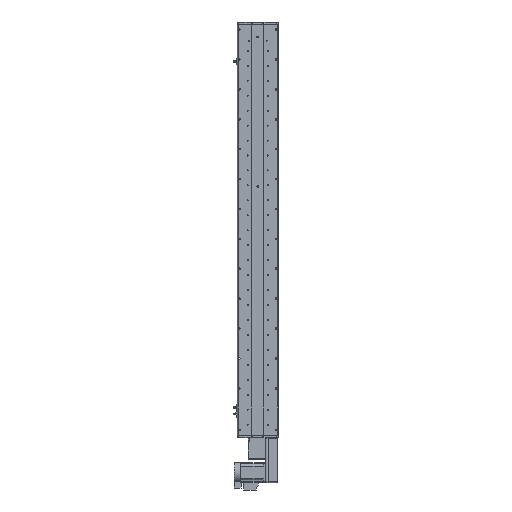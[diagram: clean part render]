
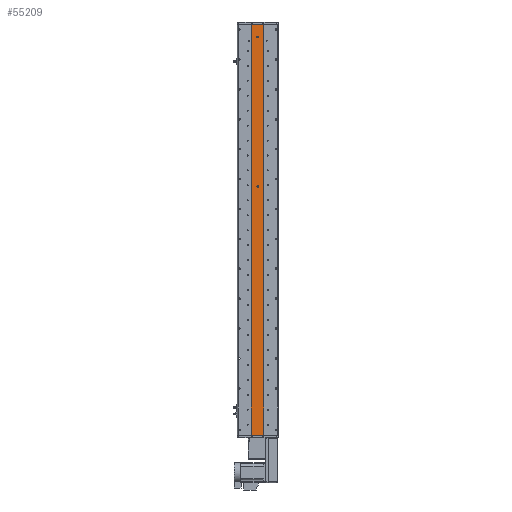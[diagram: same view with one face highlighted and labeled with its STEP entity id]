
A CAD part, front view. The second image highlights one B-rep face of the part: STEP entity #55209.
In plain terms, the highlighted planar face has unit normal (0, -1, 0).
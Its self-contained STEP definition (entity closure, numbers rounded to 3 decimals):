
#232 = VERTEX_POINT ( 'NONE', #11851 ) ;
#1005 = CARTESIAN_POINT ( 'NONE',  ( 25., 1., -823.5 ) ) ;
#1171 = VECTOR ( 'NONE', #14423, 1000. ) ;
#1515 = ORIENTED_EDGE ( 'NONE', *, *, #59315, .F. ) ;
#2602 = DIRECTION ( 'NONE',  ( 0., 0., -1. ) ) ;
#2994 = ORIENTED_EDGE ( 'NONE', *, *, #22758, .F. ) ;
#3137 = DIRECTION ( 'NONE',  ( 0., 0., -1. ) ) ;
#3350 = VERTEX_POINT ( 'NONE', #26264 ) ;
#3634 = VERTEX_POINT ( 'NONE', #34611 ) ;
#3875 = ORIENTED_EDGE ( 'NONE', *, *, #50365, .F. ) ;
#5883 = VERTEX_POINT ( 'NONE', #41955 ) ;
#7551 = AXIS2_PLACEMENT_3D ( 'NONE', #60839, #29465, #66164 ) ;
#7626 = EDGE_CURVE ( 'NONE', #232, #23912, #27800, .T. ) ;
#10427 = AXIS2_PLACEMENT_3D ( 'NONE', #51499, #51268, #62057 ) ;
#11658 = EDGE_CURVE ( 'NONE', #3634, #12683, #65482, .T. ) ;
#11851 = CARTESIAN_POINT ( 'NONE',  ( 0., 1., 176.5 ) ) ;
#12683 = VERTEX_POINT ( 'NONE', #39976 ) ;
#12722 = ORIENTED_EDGE ( 'NONE', *, *, #11658, .T. ) ;
#14423 = DIRECTION ( 'NONE',  ( 0., 0., -1. ) ) ;
#15831 = AXIS2_PLACEMENT_3D ( 'NONE', #65326, #33858, #2602 ) ;
#16627 = DIRECTION ( 'NONE',  ( 1., 0., 0. ) ) ;
#17194 = CIRCLE ( 'NONE', #35694, 3. ) ;
#18770 = CARTESIAN_POINT ( 'NONE',  ( 0., 1., 173.5 ) ) ;
#19612 = LINE ( 'NONE', #27146, #31831 ) ;
#21758 = ORIENTED_EDGE ( 'NONE', *, *, #65628, .F. ) ;
#22096 = EDGE_LOOP ( 'NONE', ( #37391, #47773 ) ) ;
#22758 = EDGE_CURVE ( 'NONE', #46324, #12683, #51998, .T. ) ;
#23245 = CIRCLE ( 'NONE', #46179, 3. ) ;
#23912 = VERTEX_POINT ( 'NONE', #48651 ) ;
#24011 = DIRECTION ( 'NONE',  ( 0., 0., -1. ) ) ;
#25425 = PLANE ( 'NONE',  #10427 ) ;
#25811 = VECTOR ( 'NONE', #37702, 1000. ) ;
#26264 = CARTESIAN_POINT ( 'NONE',  ( -25., 1., 823.5 ) ) ;
#27146 = CARTESIAN_POINT ( 'NONE',  ( 25., 1., 823.5 ) ) ;
#27191 = CARTESIAN_POINT ( 'NONE',  ( 25., 1., 823.5 ) ) ;
#27581 = ORIENTED_EDGE ( 'NONE', *, *, #32534, .T. ) ;
#27800 = CIRCLE ( 'NONE', #7551, 3. ) ;
#28612 = CIRCLE ( 'NONE', #15831, 3. ) ;
#29465 = DIRECTION ( 'NONE',  ( 0., -1., 0. ) ) ;
#31831 = VECTOR ( 'NONE', #16627, 1000. ) ;
#32253 = DIRECTION ( 'NONE',  ( 1., 0., 0. ) ) ;
#32425 = EDGE_CURVE ( 'NONE', #23912, #232, #23245, .T. ) ;
#32534 = EDGE_CURVE ( 'NONE', #3350, #3634, #58462, .T. ) ;
#33858 = DIRECTION ( 'NONE',  ( 0., -1., 0. ) ) ;
#34390 = DIRECTION ( 'NONE',  ( 0., -1., 0. ) ) ;
#34611 = CARTESIAN_POINT ( 'NONE',  ( -25., 1., -823.5 ) ) ;
#35694 = AXIS2_PLACEMENT_3D ( 'NONE', #65854, #34390, #3137 ) ;
#37391 = ORIENTED_EDGE ( 'NONE', *, *, #32425, .F. ) ;
#37702 = DIRECTION ( 'NONE',  ( 0., 0., -1. ) ) ;
#39364 = FACE_OUTER_BOUND ( 'NONE', #47741, .T. ) ;
#39976 = CARTESIAN_POINT ( 'NONE',  ( 25., 1., -823.5 ) ) ;
#41955 = CARTESIAN_POINT ( 'NONE',  ( 0., 1., 770.5 ) ) ;
#44066 = VERTEX_POINT ( 'NONE', #63555 ) ;
#46179 = AXIS2_PLACEMENT_3D ( 'NONE', #18770, #55329, #24011 ) ;
#46324 = VERTEX_POINT ( 'NONE', #56414 ) ;
#47741 = EDGE_LOOP ( 'NONE', ( #12722, #2994, #1515, #27581 ) ) ;
#47773 = ORIENTED_EDGE ( 'NONE', *, *, #7626, .F. ) ;
#48651 = CARTESIAN_POINT ( 'NONE',  ( 0., 1., 170.5 ) ) ;
#50365 = EDGE_CURVE ( 'NONE', #44066, #5883, #28612, .T. ) ;
#50945 = CARTESIAN_POINT ( 'NONE',  ( -25., 1., 823.5 ) ) ;
#51268 = DIRECTION ( 'NONE',  ( 0., 1., 0. ) ) ;
#51499 = CARTESIAN_POINT ( 'NONE',  ( 25., 1., 823.5 ) ) ;
#51998 = LINE ( 'NONE', #27191, #25811 ) ;
#53297 = FACE_BOUND ( 'NONE', #22096, .T. ) ;
#55209 = ADVANCED_FACE ( 'NONE', ( #53297, #65656, #39364 ), #25425, .F. ) ;
#55329 = DIRECTION ( 'NONE',  ( 0., -1., 0. ) ) ;
#55584 = EDGE_LOOP ( 'NONE', ( #21758, #3875 ) ) ;
#56414 = CARTESIAN_POINT ( 'NONE',  ( 25., 1., 823.5 ) ) ;
#58462 = LINE ( 'NONE', #50945, #1171 ) ;
#59315 = EDGE_CURVE ( 'NONE', #3350, #46324, #19612, .T. ) ;
#60839 = CARTESIAN_POINT ( 'NONE',  ( 0., 1., 173.5 ) ) ;
#62057 = DIRECTION ( 'NONE',  ( 0., 0., 1. ) ) ;
#63555 = CARTESIAN_POINT ( 'NONE',  ( 0., 1., 776.5 ) ) ;
#63820 = VECTOR ( 'NONE', #32253, 1000. ) ;
#65326 = CARTESIAN_POINT ( 'NONE',  ( 0., 1., 773.5 ) ) ;
#65482 = LINE ( 'NONE', #1005, #63820 ) ;
#65628 = EDGE_CURVE ( 'NONE', #5883, #44066, #17194, .T. ) ;
#65656 = FACE_BOUND ( 'NONE', #55584, .T. ) ;
#65854 = CARTESIAN_POINT ( 'NONE',  ( 0., 1., 773.5 ) ) ;
#66164 = DIRECTION ( 'NONE',  ( 0., 0., -1. ) ) ;
